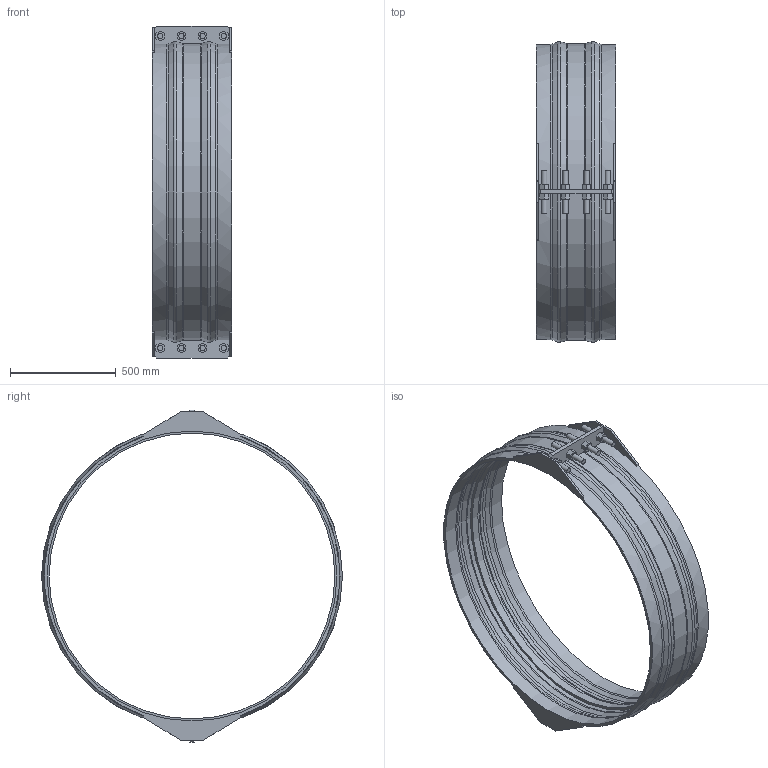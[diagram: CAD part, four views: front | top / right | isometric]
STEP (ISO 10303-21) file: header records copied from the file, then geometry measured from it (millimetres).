
FILE_DESCRIPTION(/* description */ ('VIC SS RESTRAINED COUPLING STYLE 233S (FLEX) (BRD)','CAx-IF Rec.Pracs.---Representation and Presentation of Product Manufacturing Information (PMI)---4.0---2014-10-13'),/* implementation_level */ '2;1');
FILE_NAME(/* name */ 'C:\Users\kkamble\AppData\Roaming\Autodesk\ApplicationPlugins\Back Up\Victaulic_VBSP_Coupling Flexible Restrained_Style 233S (BRD)\Victaulic_VBSP_Coupling Flexible Restrained_Style 233S (BRD)_150psi_54 (1350).stp',/* time_stamp */ '2020-09-22T18:30:26+05:00',/* author */ ('Vjadhav'),/* organization */ ('Victaulic'),/* preprocessor_version */ 'ST-DEVELOPER v17.2',/* originating_system */ 'Autodesk Inventor 2019',/* authorisation */ '');
FILE_SCHEMA (('AP242_MANAGED_MODEL_BASED_3D_ENGINEERING_MIM_LF { 1 0 10303 442 1 1 4 }'));
Length unit declared in the file: inch
Products named in the file (1): Style_233S_Type_2_150psi-54.0
Bounding box: 374.65 x 1423.69 x 1570.99 mm (x, y, z)
Volume: 26222122 mm3; surface area: 4005488.6 mm2
Topology: 1 solids, 1 shells, 239 faces, 625 edges, 422 vertices
Faces by surface type: plane 166, cylinder 43, torus 18, cone 12
Full cylindrical faces by diameter (mm): 25.4 x16, 1352.55 x1, 1371.6 x2, 1377.95 x2
Entity records: 7896 total; most frequent: CARTESIAN_POINT 1496, DIRECTION 1259, ORIENTED_EDGE 1250, EDGE_CURVE 625, LINE 449, VECTOR 449, VERTEX_POINT 422, AXIS2_PLACEMENT_3D 405
